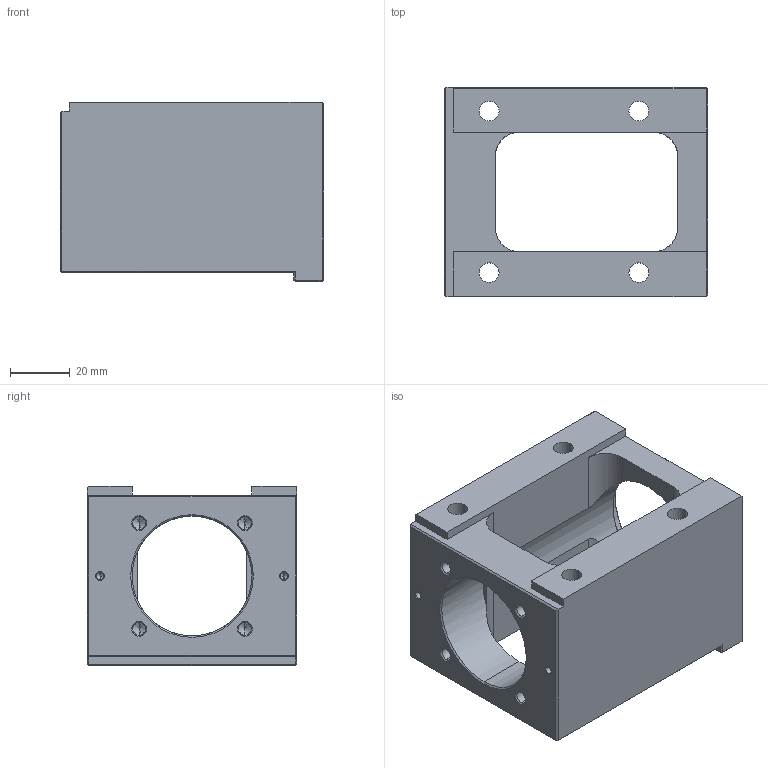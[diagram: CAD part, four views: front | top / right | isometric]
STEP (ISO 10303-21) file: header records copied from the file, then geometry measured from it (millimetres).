
FILE_DESCRIPTION (( 'STEP AP203' ), '1' );
FILE_NAME ('MBH15-D.STEP', '2017-12-28T06:30:20', ( '' ), ( '' ), 'SwSTEP 2.0', 'SolidWorks 2017', '' );
FILE_SCHEMA (( 'CONFIG_CONTROL_DESIGN' ));
Length unit declared in the file: millimetre
Products named in the file (1): MBH15-D
Bounding box: 88 x 70 x 60 mm (x, y, z)
Volume: 156920.6 mm3; surface area: 42979.6 mm2
Topology: 1 solids, 1 shells, 176 faces, 431 edges, 244 vertices
Faces by surface type: cone 70, cylinder 56, plane 50
Entity records: 5134 total; most frequent: CARTESIAN_POINT 956, DIRECTION 907, ORIENTED_EDGE 806, EDGE_CURVE 403, AXIS2_PLACEMENT_3D 335, VERTEX_POINT 244, LINE 237, VECTOR 237
